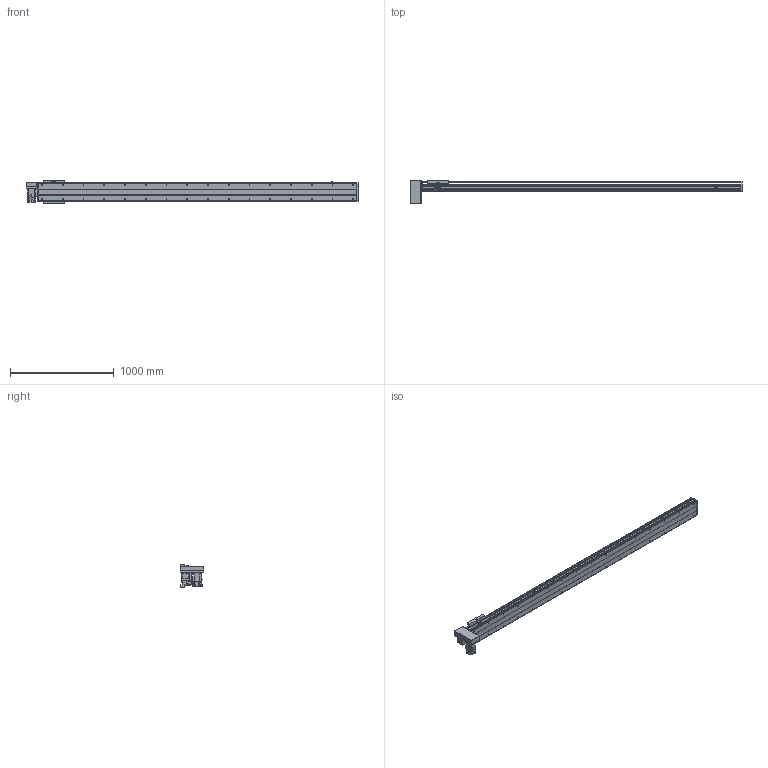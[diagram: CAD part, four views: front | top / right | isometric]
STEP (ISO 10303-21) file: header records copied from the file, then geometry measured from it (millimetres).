
FILE_DESCRIPTION(/* description */ ('STEP AP214'),/* implementation_level */ '2;1');
FILE_NAME(/* name */ 'PBS200-P40-S2700-RD-T75-C1-N(0)',/* time_stamp */ '2022-06-11T09:32:11+02:00',/* author */ ('License CC BY-ND 4.0'),/* organization */ ('CADENAS'),/* preprocessor_version */ 'ST-DEVELOPER v18.102',/* originating_system */ 'PARTsolutions',/* authorisation */ ' ');
FILE_SCHEMA (('AUTOMOTIVE_DESIGN {1 0 10303 214 3 1 1}'));
Length unit declared in the file: millimetre
Products named in the file (7): PBS200-P40-S2700-RD-T75-C1-N(0); PBS200_sensor; PBS200_plant; PBS200_sliser; T75-p1; PBS200T-RD_motors; PBS200-S2700()_body
Assembly tree (8 placements, depth 2):
  PBS200-P40-S2700-RD-T75-C1-N(0)
    PBS200_sensor  x3
    PBS200_plant
    PBS200_sliser
    T75-p1
    PBS200T-RD_motors
    PBS200-S2700()_body
Bounding box: 3200 x 230 x 221 mm (x, y, z)
Volume: 21853197.8 mm3; surface area: 3493028 mm2
Topology: 8 solids, 8 shells, 968 faces, 2454 edges, 1596 vertices
Faces by surface type: plane 590, cylinder 314, cone 64
Full cylindrical faces by diameter (mm): 2.459 x6, 3.242 x4, 4.5 x6, 4.917 x4, 5 x6, 6 x7, 6.6 x8, 6.647 x36, 8 x6, 10 x4, 12 x8, 38 x2, 40 x1, 70 x1
Entity records: 25541 total; most frequent: DIRECTION 4519, CARTESIAN_POINT 4336, ORIENTED_EDGE 4078, EDGE_CURVE 2039, AXIS2_PLACEMENT_3D 1603, VERTEX_POINT 1420, LINE 1313, VECTOR 1313
